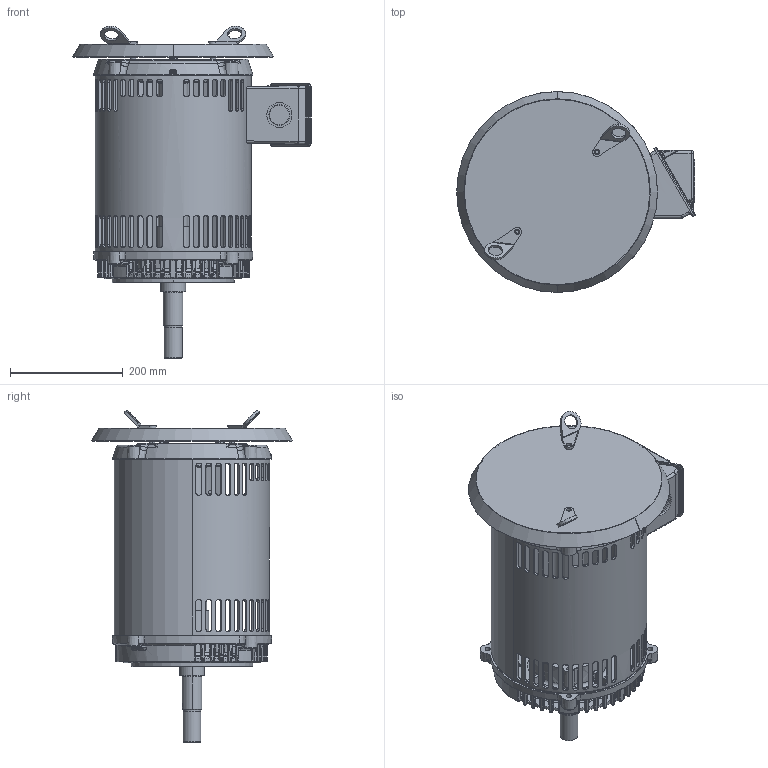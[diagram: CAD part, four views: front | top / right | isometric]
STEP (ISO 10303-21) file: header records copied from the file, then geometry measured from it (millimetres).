
FILE_DESCRIPTION((''),'2;1');
FILE_NAME('250_ODP_CFACE_ASM_ASM','2018-10-10T13:26:06',('emd2341'),('Nidec Motor Corporation'),'CREO PARAMETRIC BY PTC INC, 2018020','CREO PARAMETRIC BY PTC INC, 2018020','');
FILE_SCHEMA(('CONFIG_CONTROL_DESIGN'));
Length unit declared in the file: inch
Products named in the file (13): 2046004_AF2; 2035295-BKT_AF0; 2033996-005_AF0; 2028415_ASM; 2046094; 0183520; 2075307; 0364229; 0364236; PRT0001; PRT0002; 0369733; 250_ODP_CFACE_ASM_ASM
Assembly tree (14 placements, depth 3):
  250_ODP_CFACE_ASM_ASM
    2046004_AF2
    2028415_ASM
      2035295-BKT_AF0
      2033996-005_AF0
    2046094
    0183520
    2075307
    0364229
    0364236
    PRT0001  x2
    PRT0002
    0369733  x2
Bounding box: 422.41 x 355.6 x 587.65 mm (x, y, z)
Volume: 4022092.8 mm3; surface area: 1493267.2 mm2
Topology: 15 solids, 22 shells, 3859 faces, 9545 edges, 5697 vertices
Faces by surface type: bspline 1372, cylinder 950, plane 725, torus 372, cone 353, sphere 79, extrusion 8
Entity records: 189597 total; most frequent: CARTESIAN_POINT 108328, ORIENTED_EDGE 18910, DIRECTION 14201, EDGE_CURVE 9470, AXIS2_PLACEMENT_3D 5672, VERTEX_POINT 5665, EDGE_LOOP 4121, FACE_OUTER_BOUND 3835
